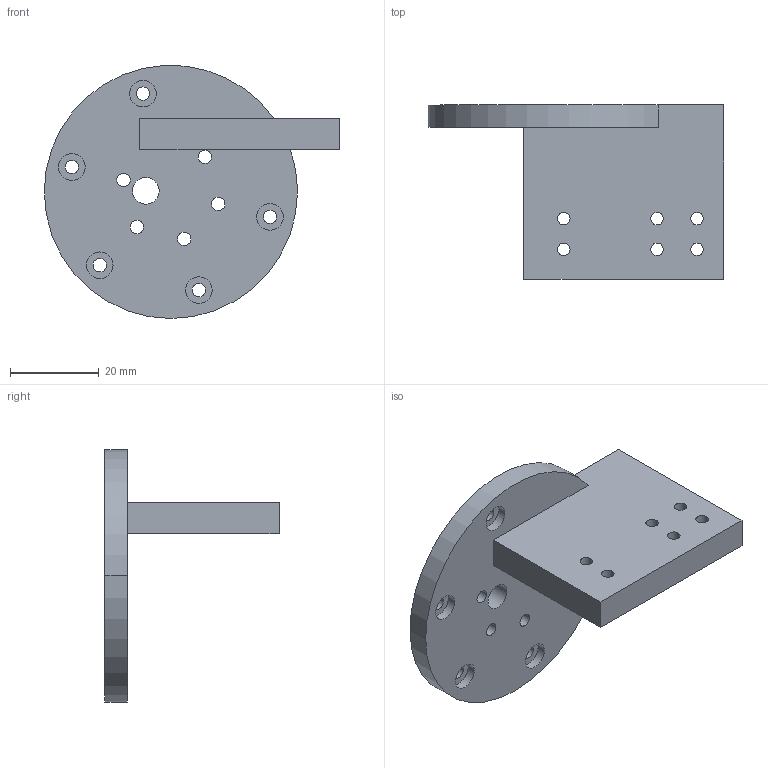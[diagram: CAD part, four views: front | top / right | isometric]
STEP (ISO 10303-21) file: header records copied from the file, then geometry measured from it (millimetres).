
FILE_DESCRIPTION (( 'STEP AP214' ), '1' );
FILE_NAME ('gripper_holder_FAZE4.STEP', '2020-08-29T12:59:11', ( '' ), ( '' ), 'SwSTEP 2.0', 'SolidWorks 2020', '' );
FILE_SCHEMA (( 'AUTOMOTIVE_DESIGN' ));
Length unit declared in the file: millimetre
Products named in the file (1): gripper_holder_FAZE4
Bounding box: 66.51 x 39.2 x 56.95 mm (x, y, z)
Volume: 23012.3 mm3; surface area: 10616.5 mm2
Topology: 1 solids, 1 shells, 59 faces, 156 edges, 104 vertices
Faces by surface type: cylinder 47, plane 12
Entity records: 1986 total; most frequent: DIRECTION 370, CARTESIAN_POINT 320, ORIENTED_EDGE 312, EDGE_CURVE 156, AXIS2_PLACEMENT_3D 154, VERTEX_POINT 104, EDGE_LOOP 98, CIRCLE 94
